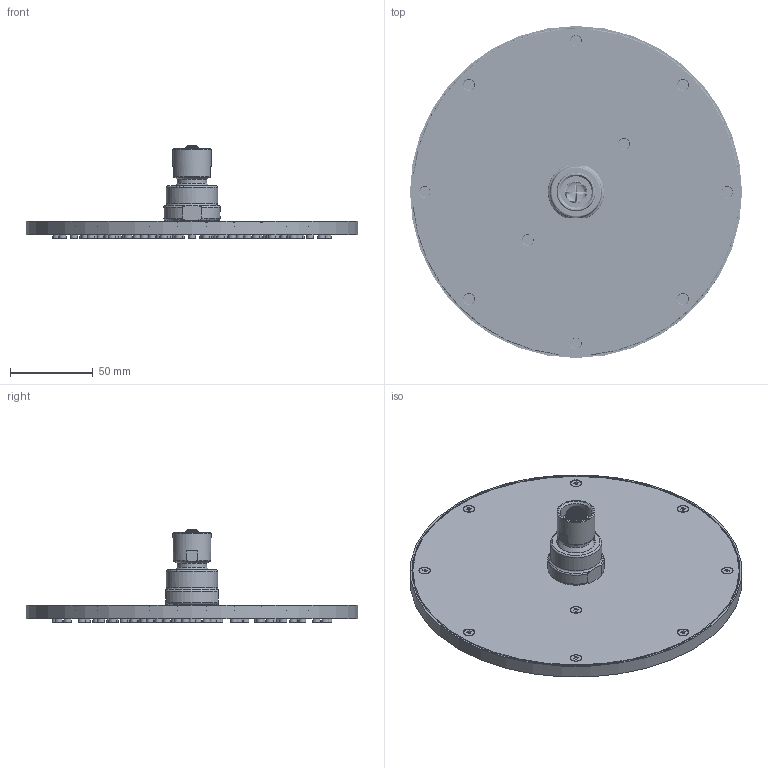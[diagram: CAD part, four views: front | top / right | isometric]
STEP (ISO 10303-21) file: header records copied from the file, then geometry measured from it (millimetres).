
FILE_DESCRIPTION(/* description */ (''),/* implementation_level */ '2;1');
FILE_NAME(/* name */ 'c:\worker\convert-fusion-r05\tmp\job-1\312\output\files\7b9fbea1-c0f5-4e14-8565-229fe7ea1af6\2878608c-db94-49b0-9c9a-75443968d396.stp',/* time_stamp */ '2020-06-30T08:38:25+00:00',/* author */ (''),/* organization */ (''),/* preprocessor_version */ 'ST-DEVELOPER v18.1',/* originating_system */ 'Autodesk Translation Framework v9.3.0.1241',/* authorisation */ '');
FILE_SCHEMA (('AUTOMOTIVE_DESIGN { 1 0 10303 214 3 1 1 }'));
Products named in the file (1): !WG120BL
Bounding box: 200.8 x 200.8 x 56.66 mm (x, y, z)
Volume: 63215.7 mm3; surface area: 154906.2 mm2
Topology: 111 solids, 111 shells, 2250 faces, 7400 edges, 4530 vertices
Faces by surface type: torus 879, bspline 667, cylinder 343, plane 320, cone 39, sphere 2
Full cylindrical faces by diameter (mm): 1.3 x95, 3.2 x2, 4 x1, 4.5 x96, 5 x95, 6.5 x10, 10 x1, 12.6 x1, 13 x1, 14.05 x1, 14.9 x2, 15.9 x1, 18 x1, 19 x2, 23 x1, 23.6 x1, 26 x1, 26.75 x8, 29.051 x1, 29.2 x1, 31 x1, 197.391 x2, 198.5 x1, 198.8 x1, 200.8 x1
Entity records: 199336 total; most frequent: CARTESIAN_POINT 142748, ORIENTED_EDGE 14798, DIRECTION 7811, EDGE_CURVE 7399, B_SPLINE_CURVE_WITH_KNOTS 4778, VERTEX_POINT 4530, AXIS2_PLACEMENT_3D 3609, EDGE_LOOP 2793
